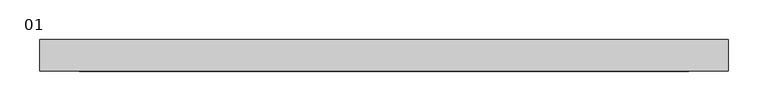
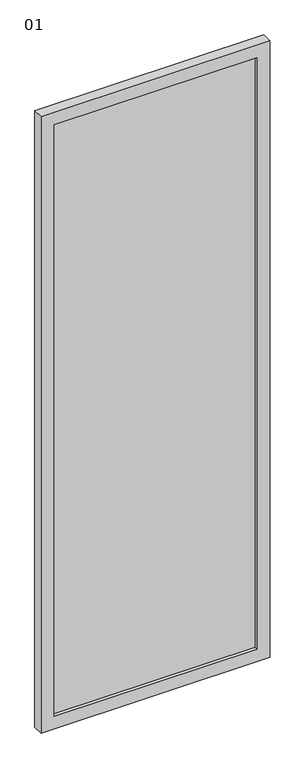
"""IFC4 building model written with IfcOpenShell, lengths in millimetres: plate geometry, pnl - PORTÃO DE VIDRO DE ABRIR 01 - 1 FOLHA : 01."""

import ifcopenshell
import ifcopenshell.guid

model = None  # the IFC model being written
_history = None  # IfcOwnerHistory: only IFC2X3 demands one
_inside = {}  # id of a spatial element -> (the spatial element, [elements in it])
_under = {}  # id of a project, library or spatial element -> (it, [spatial elements below it])
_declared = {}  # id of a project -> (the project, [libraries it declares])
_typed = {}  # id of a type object -> (the type object, [elements of that type])
_made_of = {}  # id of a material, layer set ... -> (it, [elements and type objects made of it])


def new_model(schema):
    """Start an empty IFC model of exactly this schema.

    Asked for "IFC4X3", IfcOpenShell would pick the latest addendum, in which some entities
    have other attributes; the version numbers below select the first issue.
    IFC2X3 requires an IfcOwnerHistory on every rooted entity: one is made here for all.
    """
    global model, _history
    if schema == "IFC4X3":
        model = ifcopenshell.file(schema_version=(4, 3, 0, 0))
    else:
        model = ifcopenshell.file(schema=schema)
    _inside.clear()
    _under.clear()
    _declared.clear()
    _typed.clear()
    _made_of.clear()
    _history = None
    if model.schema == "IFC2X3":
        org = make("IfcOrganization", Name="unknown")
        user = make(
            "IfcPersonAndOrganization",
            ThePerson=make("IfcPerson", FamilyName="unknown"),
            TheOrganization=org,
        )
        app = make(
            "IfcApplication",
            ApplicationDeveloper=org,
            Version="unknown",
            ApplicationFullName="unknown",
            ApplicationIdentifier="unknown",
        )
        _history = make(
            "IfcOwnerHistory",
            OwningUser=user,
            OwningApplication=app,
            ChangeAction="ADDED",
            CreationDate=0,
        )
    return model


def make(cls, **values):
    """One entity of the class cls with the attributes given. An attribute that is None is left unset."""
    return model.create_entity(
        cls, **{name: value for name, value in values.items() if value is not None}
    )


def rooted(cls, **values):
    """An entity with a GlobalId (a new one), such as an element, a storey or a relation."""
    return make(cls, GlobalId=ifcopenshell.guid.new(), OwnerHistory=_history, **values)


def si_unit(unit_type, name, prefix=None):
    """IfcSIUnit, for example si_unit("LENGTHUNIT", "METRE", prefix="MILLI")."""
    return make("IfcSIUnit", UnitType=unit_type, Prefix=prefix, Name=name)


def assignment(units):
    """IfcUnitAssignment: the units of a project."""
    return None if units is None else make("IfcUnitAssignment", Units=units)


def point(xyz):
    """IfcCartesianPoint."""
    return None if xyz is None else make("IfcCartesianPoint", Coordinates=xyz)


def direction(xyz):
    """IfcDirection."""
    return None if xyz is None else make("IfcDirection", DirectionRatios=xyz)


def frame(location, z_axis=None, x_axis=None):
    """IfcAxis2Placement3D, a coordinate frame: its origin and axes. An axis left out is left unset."""
    return make(
        "IfcAxis2Placement3D",
        Location=point(location),
        Axis=direction(z_axis),
        RefDirection=direction(x_axis),
    )


def origin():
    """The frame at (0, 0, 0) with its axes left unset."""
    return frame((0.0, 0.0, 0.0))


def place(relative_to, where):
    """IfcLocalPlacement: puts the frame where relative to a parent placement (None: the world)."""
    return make(
        "IfcLocalPlacement", PlacementRelTo=relative_to, RelativePlacement=where
    )


def context(
    kind, dimensions, precision=None, world=None, true_north=None, identifier=None
):
    """IfcGeometricRepresentationContext, for example the 3D "Model" context."""
    return make(
        "IfcGeometricRepresentationContext",
        ContextIdentifier=identifier,
        ContextType=kind,
        CoordinateSpaceDimension=dimensions,
        Precision=precision,
        WorldCoordinateSystem=world,
        TrueNorth=true_north,
    )


def project(units=None, contexts=None):
    """IfcProject with its units and contexts."""
    return rooted(
        "IfcProject",
        Name="project",
        RepresentationContexts=contexts,
        UnitsInContext=assignment(units),
    )


def spatial(cls, under=None, at=None, **own):
    """A site, building, storey or space (cls), placed at a placement, below another one or the project."""
    s = rooted(cls, ObjectPlacement=at, **own)
    if under is not None:
        _under.setdefault(under.id(), (under, []))[1].append(s)
    return s


def polyline(points):
    """IfcPolyline through the points."""
    return make("IfcPolyline", Points=[point(p) for p in points])


def outline(outer, holes=None, kind="AREA"):
    """IfcArbitraryClosedProfileDef: a profile drawn as a closed curve; with holes, ...WithVoids."""
    if holes is None:
        return make("IfcArbitraryClosedProfileDef", ProfileType=kind, OuterCurve=outer)
    return make(
        "IfcArbitraryProfileDefWithVoids",
        ProfileType=kind,
        OuterCurve=outer,
        InnerCurves=holes,
    )


def extrude(swept, where, along, depth):
    """IfcExtrudedAreaSolid: the profile swept, set in the frame where, extruded along a direction by depth."""
    return make(
        "IfcExtrudedAreaSolid",
        SweptArea=swept,
        Position=where,
        ExtrudedDirection=direction(along),
        Depth=depth,
    )


def shape(context_of_items, identifier, shape_type, items):
    """IfcShapeRepresentation: the items that make up one representation, for example the "Body"."""
    return make(
        "IfcShapeRepresentation",
        ContextOfItems=context_of_items,
        RepresentationIdentifier=identifier,
        RepresentationType=shape_type,
        Items=items,
    )


def source(mapping_origin, context_of_items, identifier, shape_type, items):
    """IfcRepresentationMap: a shape defined once, which mapped items show again and again."""
    return make(
        "IfcRepresentationMap",
        MappingOrigin=mapping_origin,
        MappedRepresentation=shape(context_of_items, identifier, shape_type, items),
    )


def transform(
    local_origin,
    x_axis=None,
    y_axis=None,
    z_axis=None,
    scale=None,
    scale2=None,
    scale3=None,
    uniform=True,
):
    """IfcCartesianTransformationOperator3D, or its non-uniform kind. x_axis, y_axis, z_axis: its Axis1, 2, 3."""
    if uniform:
        return make(
            "IfcCartesianTransformationOperator3D",
            Axis1=direction(x_axis),
            Axis2=direction(y_axis),
            LocalOrigin=point(local_origin),
            Scale=scale,
            Axis3=direction(z_axis),
        )
    return make(
        "IfcCartesianTransformationOperator3DnonUniform",
        Axis1=direction(x_axis),
        Axis2=direction(y_axis),
        LocalOrigin=point(local_origin),
        Scale=scale,
        Axis3=direction(z_axis),
        Scale2=scale2,
        Scale3=scale3,
    )


def mapped(mapping_source, mapping_target):
    """IfcMappedItem: shows the shape of a source again, moved by a transform."""
    return make(
        "IfcMappedItem", MappingSource=mapping_source, MappingTarget=mapping_target
    )


def made_of(thing, what):
    """Note that an element or type object is made of a material, layer set ...; save() writes the relation."""
    if what is not None:
        _made_of.setdefault(what.id(), (what, []))[1].append(thing)
    return thing


def element(
    cls,
    number,
    at=None,
    inside=None,
    cuts=None,
    type_object=None,
    material=None,
    context=None,
    identifier="Body",
    shape_type=None,
    held_by="IfcProductDefinitionShape",
    body=None,
    shapes=None,
    **own,
):
    """One element of the class cls, such as IfcWall. Its Tag is "e" and its number.

    at: its placement. inside: the storey or other place that contains it. cuts: it is an
    opening in that element (IfcRelVoidsElement). A single representation is given by context,
    identifier, shape_type and body (its items); several are given by shapes. held_by: the class
    of the entity that holds the representations. save() writes the other relations.
    """
    e = rooted(cls, Tag="e%d" % number, ObjectPlacement=at, **own)
    if body is not None:
        shapes = [shape(context, identifier, shape_type, body)]
    if shapes is not None:
        e.Representation = make(held_by, Representations=shapes)
    if inside is not None:
        _inside.setdefault(inside.id(), (inside, []))[1].append(e)
    if cuts is not None:
        rooted(
            "IfcRelVoidsElement", RelatingBuildingElement=cuts, RelatedOpeningElement=e
        )
    if type_object is not None:
        _typed.setdefault(type_object.id(), (type_object, []))[1].append(e)
    return made_of(e, material)


def aggregate(whole, parts):
    """IfcRelAggregates: a whole, such as a stair, and the parts it consists of."""
    return rooted("IfcRelAggregates", RelatingObject=whole, RelatedObjects=parts)


def save(model, path):
    """Write the relations noted so far, then the file.

    IfcRelAggregates (storeys below a building ...), IfcRelContainedInSpatialStructure (elements
    in a storey), IfcRelDefinesByType, IfcRelAssociatesMaterial and IfcRelDeclares: one each for
    every whole, place, type object, material and project.
    """
    for whole, parts in _under.values():
        aggregate(whole, parts)
    for where, things in _inside.values():
        rooted(
            "IfcRelContainedInSpatialStructure",
            RelatedElements=things,
            RelatingStructure=where,
        )
    for kind, things in _typed.values():
        rooted("IfcRelDefinesByType", RelatedObjects=things, RelatingType=kind)
    for what, things in _made_of.values():
        rooted("IfcRelAssociatesMaterial", RelatedObjects=things, RelatingMaterial=what)
    for by, libraries in _declared.values():
        rooted("IfcRelDeclares", RelatingContext=by, RelatedDefinitions=libraries)
    model.write(path)


def plate_01_36f4f220(model_context):
    return source(origin(), model_context, "Body", "SweptSolid", [
        extrude(outline(polyline([(-384.5273447, 8.0), (384.5273447, 8.0), (384.5273447, -8.0), (-384.5273447, -8.0), (-384.5273447, 8.0)])), frame((0.0, 0.0, 80.0), z_axis=(0.0, 0.0, 1.0), x_axis=(1.0, 0.0, 0.0)), (0.0, 0.0, 1.0), 2370.0),
        extrude(outline(polyline([(2500.0, -434.5273447), (30.0, -434.5273447), (30.0, 434.5273447), (2500.0, 434.5273447), (2500.0, -434.5273447)]), holes=[polyline([(2450.0, -384.5273447), (2450.0, 384.5273447), (80.0, 384.5273447), (80.0, -384.5273447), (2450.0, -384.5273447)])]), frame((0.0, -20.0, 0.0), z_axis=(0.0, 1.0, 0.0), x_axis=(0.0, 0.0, 1.0)), (0.0, 0.0, 1.0), 40.0),
    ])


if __name__ == "__main__":
    model = new_model("IFC4")
    model_context = context("Model", 3, world=origin())
    ifc_project = project(units=[si_unit("LENGTHUNIT", "METRE", prefix="MILLI")], contexts=[model_context])
    site = spatial("IfcSite", under=ifc_project)
    building = spatial("IfcBuilding", under=site)
    placement = place(None, origin())
    plate_01_shape = plate_01_36f4f220(model_context)
    element("IfcPlate", 1, ObjectType="pnl - PORTÃO DE VIDRO DE ABRIR 01 - 1 FOLHA : 01", at=placement, inside=building, context=model_context, shape_type="MappedRepresentation", body=[
        mapped(plate_01_shape, transform((0.0, 0.0, 0.0), x_axis=(1.0, 0.0, 0.0), y_axis=(0.0, 1.0, 0.0), z_axis=(0.0, 0.0, 1.0))),
    ])
    save(model, "model.ifc")
